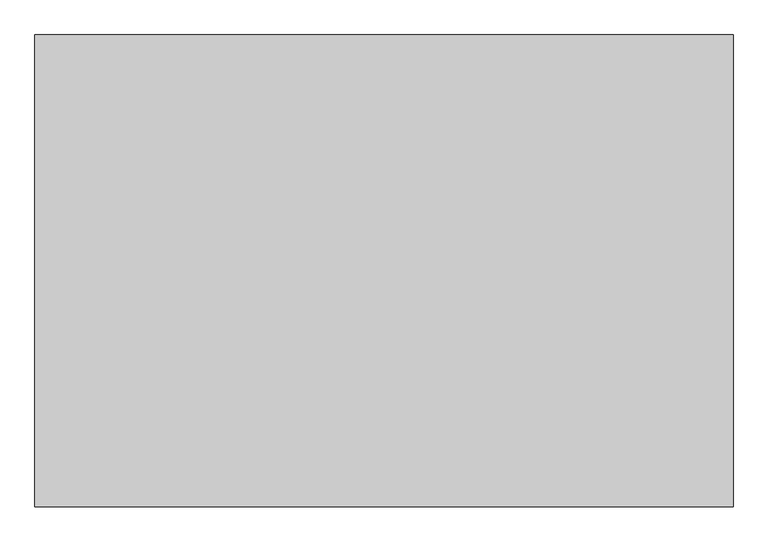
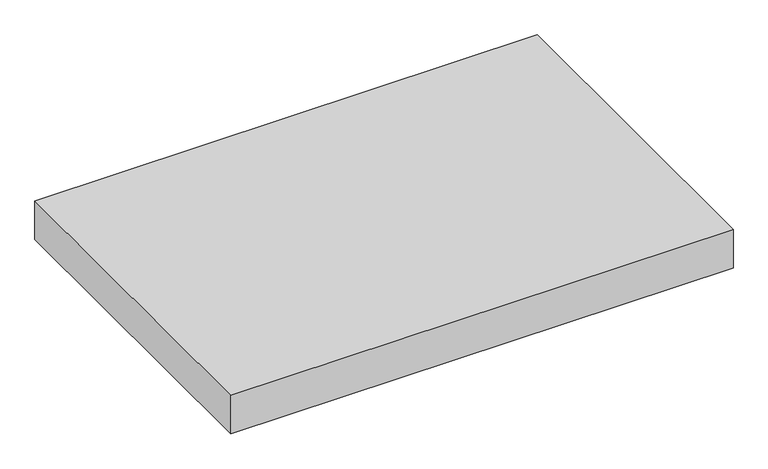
"""IFC4 building model written with IfcOpenShell, lengths in millimetres: proxy geometry, 営_屋上基礎_簡易 : 3700*250*H300."""

from ifc_helpers import new_model, si_unit, origin, origin_with_axes, place, context, project, spatial, polyline, outline, extrude, source, transform, mapped, element, save


def generic_models_7c8da837(model_context):
    return source(origin(), model_context, "Body", "SweptSolid", [
        extrude(outline(polyline([(1850.0, 1250.0), (1850.0, -1250.0), (-1850.0, -1250.0), (-1850.0, 1250.0), (1850.0, 1250.0)])), origin_with_axes(), (0.0, 0.0, 1.0), 300.0),
    ])


if __name__ == "__main__":
    model = new_model("IFC4")
    model_context = context("Model", 3, world=origin())
    ifc_project = project(units=[si_unit("LENGTHUNIT", "METRE", prefix="MILLI")], contexts=[model_context])
    site = spatial("IfcSite", under=ifc_project)
    building = spatial("IfcBuilding", under=site)
    placement = place(None, origin())
    generic_models_shape = generic_models_7c8da837(model_context)
    element("IfcBuildingElementProxy", 1, Name="営_屋上基礎_簡易 : 3700*250*H300", ObjectType="営_屋上基礎_簡易 : 3700*250*H300", at=placement, inside=building, context=model_context, shape_type="MappedRepresentation", body=[
        mapped(generic_models_shape, transform((0.0, 0.0, 0.0), x_axis=(1.0, 0.0, 0.0), y_axis=(0.0, 1.0, 0.0), z_axis=(0.0, 0.0, 1.0))),
    ])
    save(model, "model.ifc")
